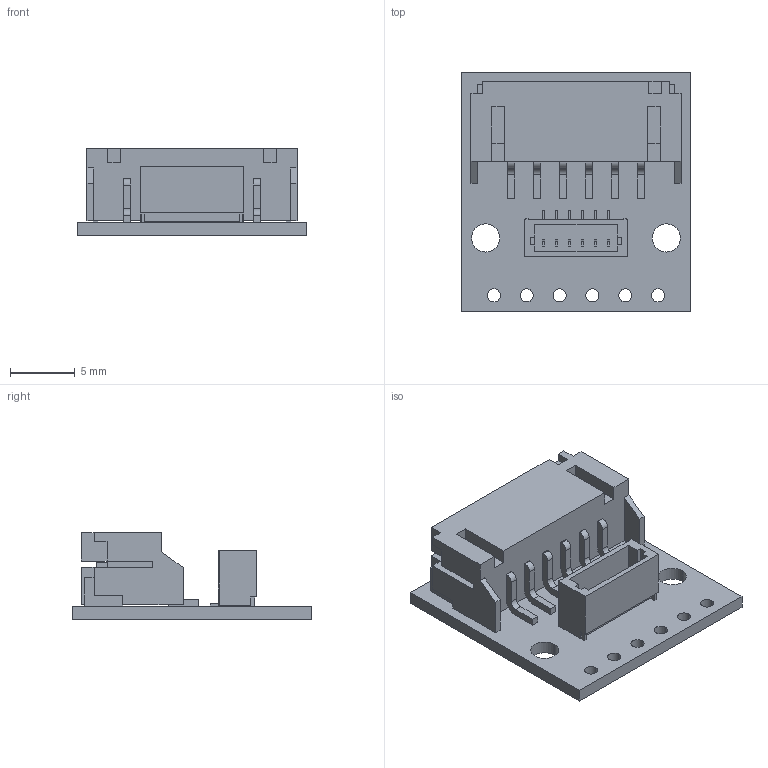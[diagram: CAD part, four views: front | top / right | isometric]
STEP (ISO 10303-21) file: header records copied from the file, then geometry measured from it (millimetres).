
FILE_DESCRIPTION (( 'STEP AP214' ), '1' );
FILE_NAME ('con12a_side_entry.STEP', '2025-08-19T02:21:27', ( '' ), ( '' ), 'SwSTEP 2.0', 'SolidWorks 2025', '' );
FILE_SCHEMA (( 'AUTOMOTIVE_DESIGN' ));
Length unit declared in the file: millimetre
Products named in the file (1): con12a_side_entry
Bounding box: 17.78 x 18.54 x 6.72 mm (x, y, z)
Volume: 649 mm3; surface area: 1714.5 mm2
Topology: 1 solids, 1 shells, 655 faces, 1816 edges, 1206 vertices
Faces by surface type: plane 446, bspline 175, cylinder 34
Entity records: 34504 total; most frequent: CARTESIAN_POINT 11557, ORIENTED_EDGE 3632, DIRECTION 2496, EDGE_CURVE 1816, LINE 1398, VECTOR 1398, VERTEX_POINT 1206, EDGE_LOOP 746
